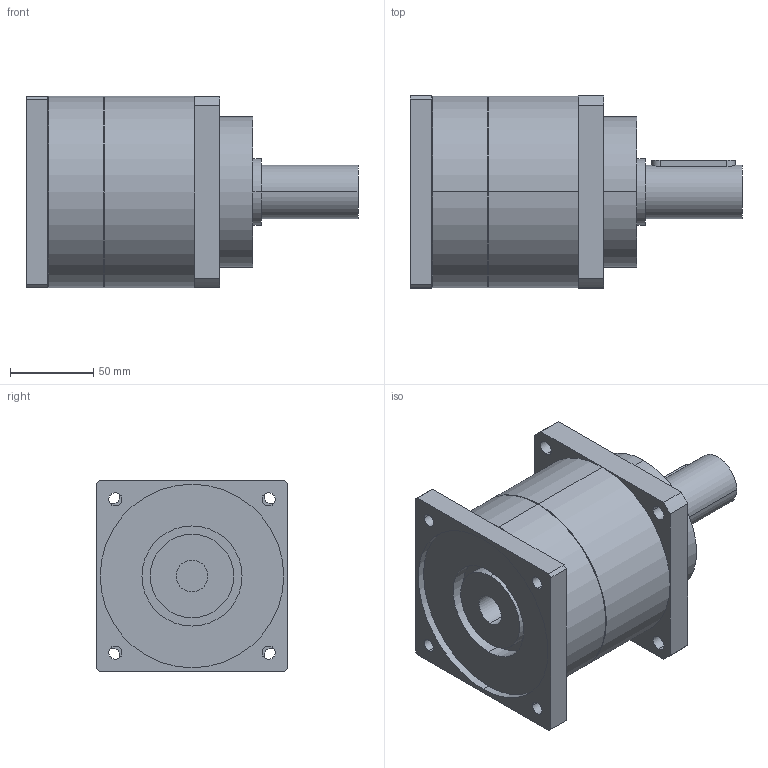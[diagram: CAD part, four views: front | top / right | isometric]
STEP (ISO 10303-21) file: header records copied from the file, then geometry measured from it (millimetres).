
FILE_DESCRIPTION(('CoCreate Modeling STEP Export'),'2;1');
FILE_NAME('GPT120_ig-3-4-5-7-10_32_B5A_19_P13.stp','2015-02-04T16:08:43',(''),(''),'CoCreate Modeling STEP processor for AP214 (Solid Model)','CoCreate Modeling 16.00C 25-Feb-2009 (C) Parametric Technology GmbH','');
FILE_SCHEMA(('AUTOMOTIVE_DESIGN { 1 0 10303 214 1 1 1 1 }'));
Length unit declared in the file: millimetre
Products named in the file (2): GPT120_ig-3-4-5-7-10_32_B5A_19_P13
Assembly tree (1 placements, depth 2):
  GPT120_ig-3-4-5-7-10_32_B5A_19_P13
    GPT120_ig-3-4-5-7-10_32_B5A_19_P13
Bounding box: 199 x 115 x 115 mm (x, y, z)
Volume: 1394576.1 mm3; surface area: 98424.1 mm2
Topology: 1 solids, 1 shells, 77 faces, 202 edges, 137 vertices
Faces by surface type: cylinder 46, plane 27, cone 4
Entity records: 2558 total; most frequent: CARTESIAN_POINT 757, ORIENTED_EDGE 404, DIRECTION 320, EDGE_CURVE 202, VERTEX_POINT 137, AXIS2_PLACEMENT_3D 118, EDGE_LOOP 103, VECTOR 84
